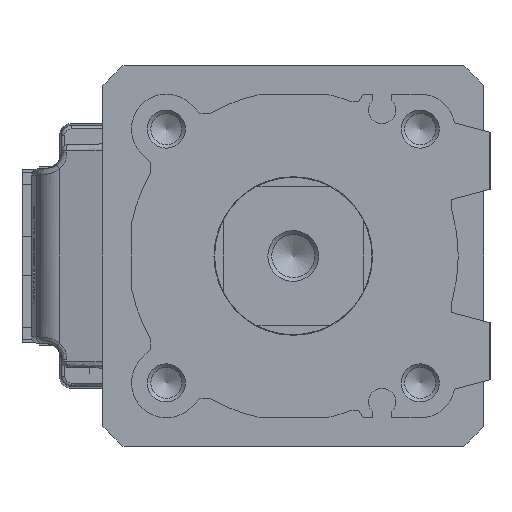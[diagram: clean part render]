
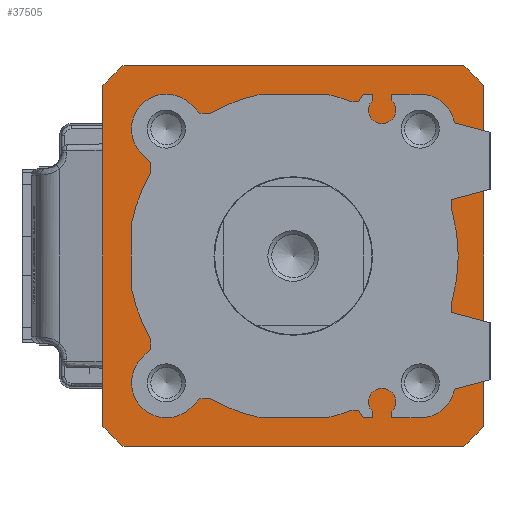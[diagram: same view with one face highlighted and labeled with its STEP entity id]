
A CAD part, left-side view. The second image highlights one B-rep face of the part: STEP entity #37505.
In plain terms, the highlighted planar face has unit normal (-1, 0, 0) as drawn and (0, 0, 1) by its records, which use the part's own axes.
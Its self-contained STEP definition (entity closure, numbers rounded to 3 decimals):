
#603 = EDGE_CURVE ( 'NONE', #34977, #37460, #34165, .T. ) ;
#1518 = ORIENTED_EDGE ( 'NONE', *, *, #20190, .T. ) ;
#1672 = ORIENTED_EDGE ( 'NONE', *, *, #17324, .T. ) ;
#1795 = CARTESIAN_POINT ( 'NONE',  ( 15.6, 0., 0. ) ) ;
#2077 = CARTESIAN_POINT ( 'NONE',  ( -30., -26.834, 0. ) ) ;
#2754 = EDGE_CURVE ( 'NONE', #8457, #26018, #41735, .T. ) ;
#4253 = ORIENTED_EDGE ( 'NONE', *, *, #2754, .F. ) ;
#5129 = VERTEX_POINT ( 'NONE', #21650 ) ;
#5150 = CIRCLE ( 'NONE', #10951, 40.25 ) ;
#5211 = CARTESIAN_POINT ( 'NONE',  ( -30., 26.834, 0. ) ) ;
#5801 = DIRECTION ( 'NONE',  ( 1., 0., 0. ) ) ;
#5839 = CARTESIAN_POINT ( 'NONE',  ( -30., 26.834, 0. ) ) ;
#5862 = LINE ( 'NONE', #44145, #42581 ) ;
#6079 = CARTESIAN_POINT ( 'NONE',  ( 0., 0., 0. ) ) ;
#6251 = EDGE_CURVE ( 'NONE', #26018, #8457, #7713, .T. ) ;
#6420 = AXIS2_PLACEMENT_3D ( 'NONE', #42129, #50360, #30422 ) ;
#7533 = CARTESIAN_POINT ( 'NONE',  ( 0., 0., 0. ) ) ;
#7713 = CIRCLE ( 'NONE', #40295, 15.6 ) ;
#8457 = VERTEX_POINT ( 'NONE', #1795 ) ;
#8779 = CARTESIAN_POINT ( 'NONE',  ( 30., 26.834, 0. ) ) ;
#9102 = AXIS2_PLACEMENT_3D ( 'NONE', #46770, #16110, #12046 ) ;
#9555 = VERTEX_POINT ( 'NONE', #5839 ) ;
#9943 = FACE_BOUND ( 'NONE', #11735, .T. ) ;
#10951 = AXIS2_PLACEMENT_3D ( 'NONE', #16410, #48633, #17436 ) ;
#11735 = EDGE_LOOP ( 'NONE', ( #25114, #4253 ) ) ;
#12046 = DIRECTION ( 'NONE',  ( 1., 0., 0. ) ) ;
#12600 = LINE ( 'NONE', #31001, #36112 ) ;
#12738 = VERTEX_POINT ( 'NONE', #2077 ) ;
#12971 = DIRECTION ( 'NONE',  ( 0., 0., 1. ) ) ;
#13551 = ORIENTED_EDGE ( 'NONE', *, *, #603, .T. ) ;
#13967 = AXIS2_PLACEMENT_3D ( 'NONE', #18857, #18372, #22431 ) ;
#16110 = DIRECTION ( 'NONE',  ( 0., 0., 1. ) ) ;
#16410 = CARTESIAN_POINT ( 'NONE',  ( 0., 0., 0. ) ) ;
#16587 = CARTESIAN_POINT ( 'NONE',  ( 26.834, 30., 0. ) ) ;
#16918 = AXIS2_PLACEMENT_3D ( 'NONE', #7533, #50487, #42258 ) ;
#17324 = EDGE_CURVE ( 'NONE', #9555, #12738, #35414, .T. ) ;
#17436 = DIRECTION ( 'NONE',  ( 1., 0., 0. ) ) ;
#18372 = DIRECTION ( 'NONE',  ( 0., 0., 1. ) ) ;
#18857 = CARTESIAN_POINT ( 'NONE',  ( 0., 0., 0. ) ) ;
#19095 = ORIENTED_EDGE ( 'NONE', *, *, #29501, .T. ) ;
#19563 = ORIENTED_EDGE ( 'NONE', *, *, #20912, .T. ) ;
#20151 = VECTOR ( 'NONE', #32077, 1000. ) ;
#20190 = EDGE_CURVE ( 'NONE', #25686, #5129, #5150, .T. ) ;
#20912 = EDGE_CURVE ( 'NONE', #26349, #9555, #29742, .T. ) ;
#21650 = CARTESIAN_POINT ( 'NONE',  ( 30., -26.834, 0. ) ) ;
#21711 = DIRECTION ( 'NONE',  ( 0., 1., 0. ) ) ;
#22431 = DIRECTION ( 'NONE',  ( 1., 0., 0. ) ) ;
#22535 = EDGE_LOOP ( 'NONE', ( #19563, #1672, #19095, #42838, #1518, #47433, #13551, #42923 ) ) ;
#24270 = CARTESIAN_POINT ( 'NONE',  ( -26.834, -30., 0. ) ) ;
#24277 = VECTOR ( 'NONE', #39880, 1000. ) ;
#24810 = AXIS2_PLACEMENT_3D ( 'NONE', #33654, #47298, #31981 ) ;
#24976 = EDGE_CURVE ( 'NONE', #5129, #34977, #5862, .T. ) ;
#25083 = VERTEX_POINT ( 'NONE', #26794 ) ;
#25114 = ORIENTED_EDGE ( 'NONE', *, *, #6251, .F. ) ;
#25686 = VERTEX_POINT ( 'NONE', #27992 ) ;
#26018 = VERTEX_POINT ( 'NONE', #46749 ) ;
#26349 = VERTEX_POINT ( 'NONE', #35470 ) ;
#26781 = EDGE_CURVE ( 'NONE', #37460, #26349, #12600, .T. ) ;
#26794 = CARTESIAN_POINT ( 'NONE',  ( -26.834, -30., 0. ) ) ;
#27992 = CARTESIAN_POINT ( 'NONE',  ( 26.834, -30., 0. ) ) ;
#28837 = FACE_OUTER_BOUND ( 'NONE', #22535, .T. ) ;
#29501 = EDGE_CURVE ( 'NONE', #12738, #25083, #29993, .T. ) ;
#29742 = CIRCLE ( 'NONE', #24810, 40.25 ) ;
#29993 = CIRCLE ( 'NONE', #16918, 40.25 ) ;
#30034 = EDGE_CURVE ( 'NONE', #25083, #25686, #47040, .T. ) ;
#30422 = DIRECTION ( 'NONE',  ( 1., 0., 0. ) ) ;
#31001 = CARTESIAN_POINT ( 'NONE',  ( 26.834, 30., 0. ) ) ;
#31261 = DIRECTION ( 'NONE',  ( -1., 0., 0. ) ) ;
#31981 = DIRECTION ( 'NONE',  ( 1., 0., 0. ) ) ;
#32077 = DIRECTION ( 'NONE',  ( 0., -1., 0. ) ) ;
#33654 = CARTESIAN_POINT ( 'NONE',  ( 0., 0., 0. ) ) ;
#34165 = CIRCLE ( 'NONE', #6420, 40.25 ) ;
#34977 = VERTEX_POINT ( 'NONE', #8779 ) ;
#35414 = LINE ( 'NONE', #5211, #20151 ) ;
#35470 = CARTESIAN_POINT ( 'NONE',  ( -26.834, 30., 0. ) ) ;
#36112 = VECTOR ( 'NONE', #31261, 1000. ) ;
#37460 = VERTEX_POINT ( 'NONE', #16587 ) ;
#37505 = ADVANCED_FACE ( 'NONE', ( #9943, #28837 ), #44382, .T. ) ;
#39880 = DIRECTION ( 'NONE',  ( 1., 0., 0. ) ) ;
#40295 = AXIS2_PLACEMENT_3D ( 'NONE', #6079, #12971, #5801 ) ;
#41735 = CIRCLE ( 'NONE', #9102, 15.6 ) ;
#42129 = CARTESIAN_POINT ( 'NONE',  ( 0., 0., 0. ) ) ;
#42258 = DIRECTION ( 'NONE',  ( 1., 0., 0. ) ) ;
#42581 = VECTOR ( 'NONE', #21711, 1000. ) ;
#42838 = ORIENTED_EDGE ( 'NONE', *, *, #30034, .T. ) ;
#42923 = ORIENTED_EDGE ( 'NONE', *, *, #26781, .T. ) ;
#44145 = CARTESIAN_POINT ( 'NONE',  ( 30., -26.834, 0. ) ) ;
#44382 = PLANE ( 'NONE',  #13967 ) ;
#46749 = CARTESIAN_POINT ( 'NONE',  ( -15.6, 0., 0. ) ) ;
#46770 = CARTESIAN_POINT ( 'NONE',  ( 0., 0., 0. ) ) ;
#47040 = LINE ( 'NONE', #24270, #24277 ) ;
#47298 = DIRECTION ( 'NONE',  ( 0., 0., 1. ) ) ;
#47433 = ORIENTED_EDGE ( 'NONE', *, *, #24976, .T. ) ;
#48633 = DIRECTION ( 'NONE',  ( 0., 0., 1. ) ) ;
#50360 = DIRECTION ( 'NONE',  ( 0., 0., 1. ) ) ;
#50487 = DIRECTION ( 'NONE',  ( 0., 0., 1. ) ) ;
